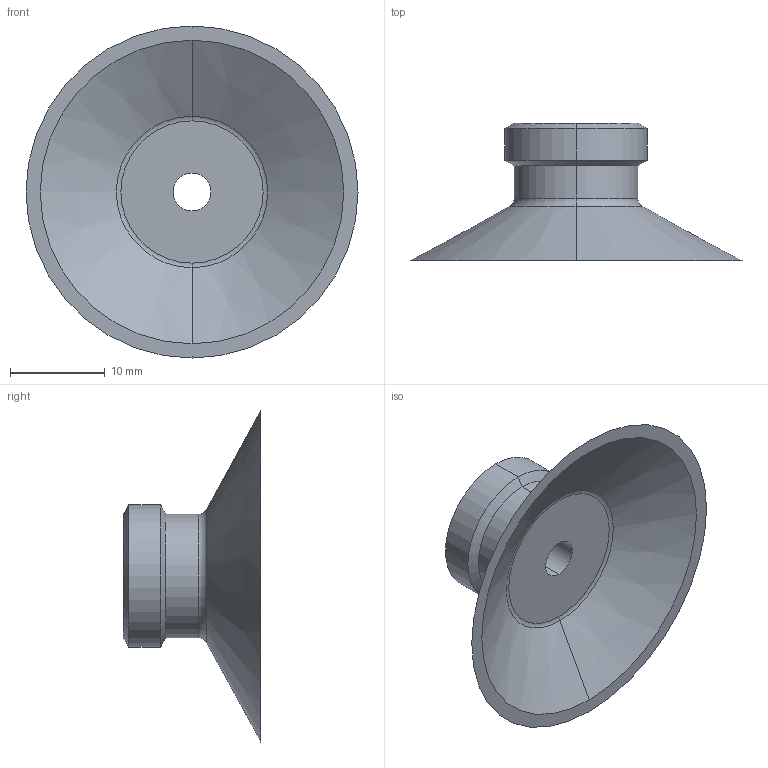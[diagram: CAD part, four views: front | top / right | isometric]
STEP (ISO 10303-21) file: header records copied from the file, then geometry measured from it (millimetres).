
FILE_DESCRIPTION (( 'STEP AP214' ), '1' );
FILE_NAME ('ZP32US.step.step', '2022-04-26T04:42:58', ( '' ), ( '' ), 'SwSTEP 2.0', 'SolidWorks 2021', '' );
FILE_SCHEMA (( 'AUTOMOTIVE_DESIGN' ));
Length unit declared in the file: millimetre
Products named in the file (3): ZP32US.step_ZP7007 Lock Ring_20-32; ZP32US.step_ZP7007 Pad_32; ZP32US.step
Assembly tree (2 placements, depth 2):
  ZP32US.step
    ZP32US.step_ZP7007 Pad_32
    ZP32US.step_ZP7007 Lock Ring_20-32
Bounding box: 35 x 14.5 x 35 mm (x, y, z)
Volume: 2007.8 mm3; surface area: 3021.9 mm2
Topology: 2 solids, 2 shells, 28 faces, 56 edges, 34 vertices
Faces by surface type: cylinder 10, cone 8, plane 6, torus 4
Entity records: 1164 total; most frequent: DIRECTION 160, CARTESIAN_POINT 123, ORIENTED_EDGE 112, AXIS2_PLACEMENT_3D 71, EDGE_CURVE 56, CIRCLE 38, UNCERTAINTY_MEASURE_WITH_UNIT 35, VERTEX_POINT 34
